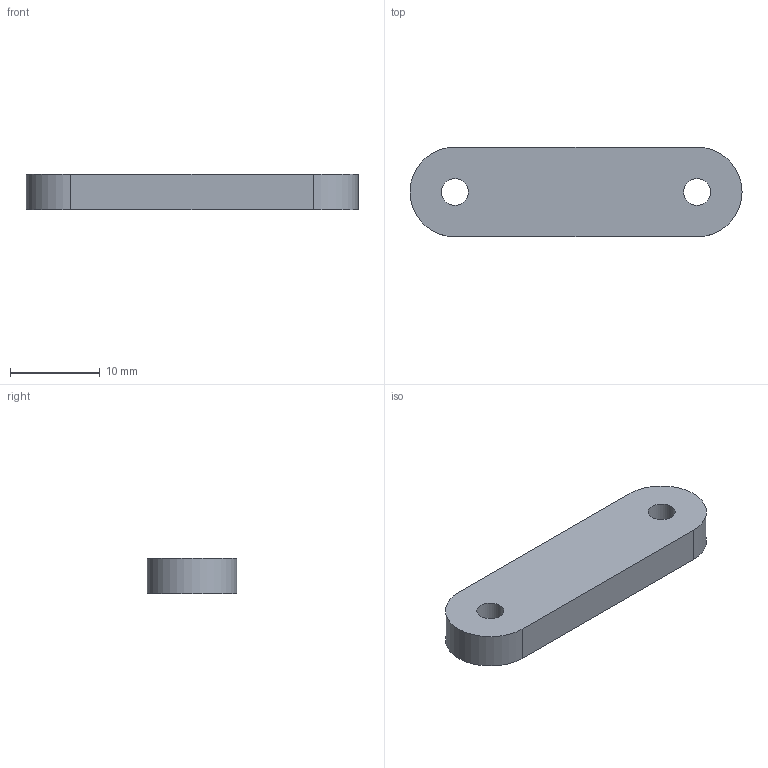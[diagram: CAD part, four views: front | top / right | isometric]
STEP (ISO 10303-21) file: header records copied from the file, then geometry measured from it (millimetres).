
FILE_DESCRIPTION(/* description */ ('STEP AP242 Edition 2','CAx-IF Rec.Pracs.---Representation and Presentation of Product Manufacturing Information (PMI)---4.0---2014-10-13','CAx-IF Rec.Pracs.---3D Tessellated Geometry---0.4---2014-09-14','2;1','CAx-IF Rec.Pracs.---User Defined Attributes---1.5---2016-08-15'),/* implementation_level */ '2;1');
FILE_NAME(/* name */ '695afefad13f1a023388946c',/* time_stamp */ '2026-01-04T23:59:55Z',/* author */ (''),/* organization */ (''),/* preprocessor_version */ 'ST-DEVELOPER v20',/* originating_system */ 'ONSHAPE BY PTC INC, 1.208',/* authorisation */ ' ');
FILE_SCHEMA (('AP242_MANAGED_MODEL_BASED_3D_ENGINEERING_MIM_LF { 1 0 10303 442 3 1 4 }'));
Length unit declared in the file: metre
Products named in the file (1): Part 1
Bounding box: 37 x 10 x 4 mm (x, y, z)
Volume: 1337.6 mm3; surface area: 1085.9 mm2
Topology: 1 solids, 1 shells, 8 faces, 18 edges, 12 vertices
Faces by surface type: plane 4, cylinder 4
Full cylindrical faces by diameter (mm): 3 x2
Entity records: 250 total; most frequent: DIRECTION 42, CARTESIAN_POINT 37, ORIENTED_EDGE 32, AXIS2_PLACEMENT_3D 17, EDGE_CURVE 16, EDGE_LOOP 14, FACE_BOUND 14, VERTEX_POINT 12
